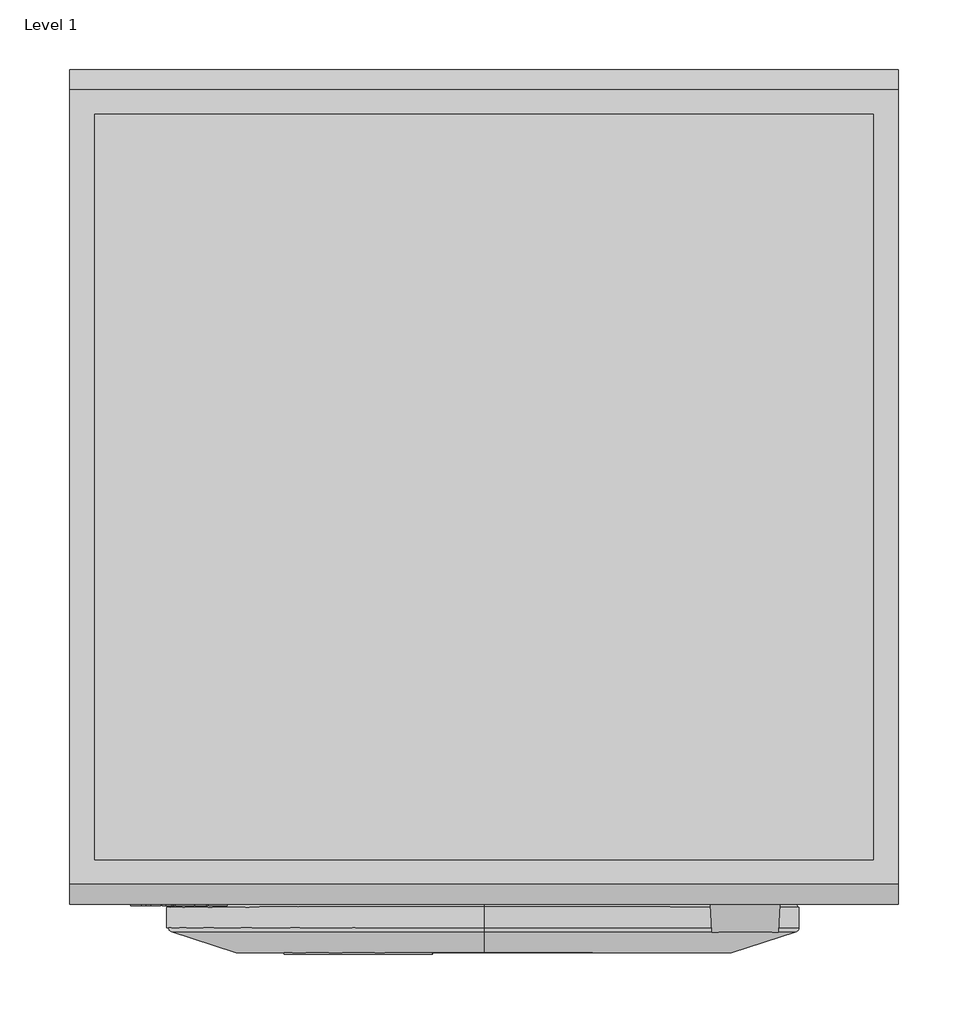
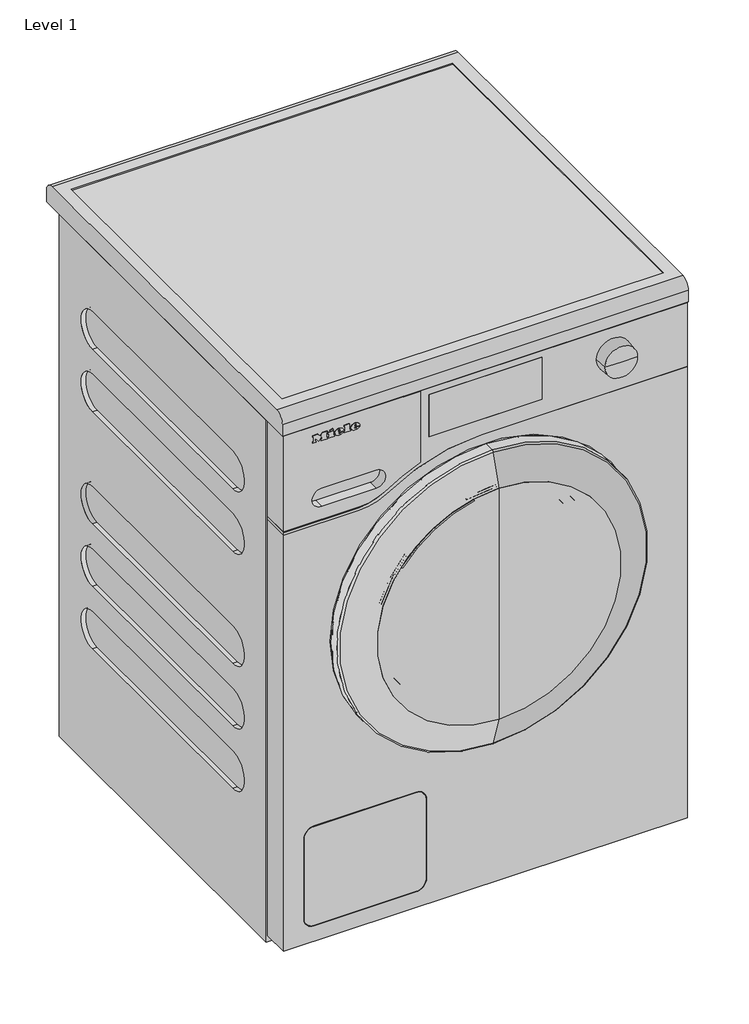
# One storey: 1 proxy.
"""IFC4 building model written with IfcOpenShell, lengths in millimetres."""

from ifc_helpers import new_model, si_unit, origin, place, context, project, spatial, transform, mapped, element, save
from components import specialty_equipment_48e7e25c, specialty_equipment_4a6f3dc0

model = new_model("IFC4")

# Units and contexts
model_context = context("Model", 3, world=origin())
ifc_project = project(units=[si_unit("LENGTHUNIT", "METRE", prefix="MILLI")], contexts=[model_context])

# Site, building, storey
site = spatial("IfcSite", under=ifc_project)
building = spatial("IfcBuilding", under=site)
storey = spatial("IfcBuildingStorey", under=building, Name="Level 1", Elevation=0.0)

# Proxy
placement = place(None, origin())
specialty_equipment_shape = specialty_equipment_48e7e25c(model_context)
specialty_equipment_2_shape = specialty_equipment_4a6f3dc0(model_context)
element("IfcBuildingElementProxy", 1, Name="11824930_I_WSA023WCS_LW : 11SA0231_I_11824930_WSA023WCS_LW", ObjectType="11824930_I_WSA023WCS_LW : 11SA0231_I_11824930_WSA023WCS_LW", at=placement, inside=storey, context=model_context, shape_type="MappedRepresentation", body=[
    mapped(specialty_equipment_shape, transform((0.0, 0.0, 0.0), x_axis=(1.0, 0.0, 0.0), y_axis=(0.0, 1.0, 0.0), z_axis=(0.0, 0.0, 1.0))),
    mapped(specialty_equipment_2_shape, transform((0.0, 0.0, 0.0), x_axis=(1.0, 0.0, 0.0), y_axis=(0.0, 1.0, 0.0), z_axis=(0.0, 0.0, 1.0))),
])

save(model, "model.ifc")
